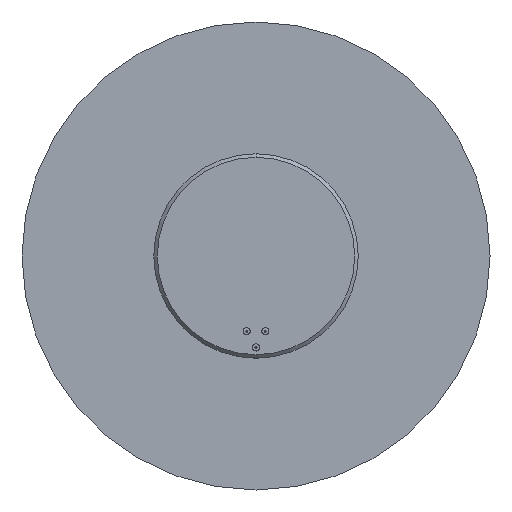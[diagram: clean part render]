
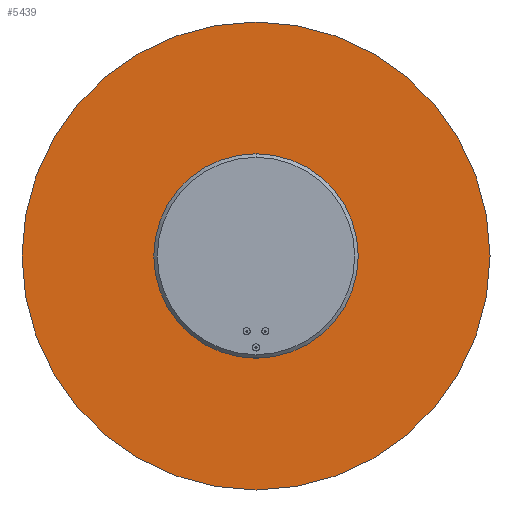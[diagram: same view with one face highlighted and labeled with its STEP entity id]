
A CAD part, front view. The second image highlights one B-rep face of the part: STEP entity #5439.
In plain terms, the highlighted planar face has unit normal (0, -1, 0).
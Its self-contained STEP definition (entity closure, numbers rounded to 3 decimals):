
#136 = EDGE_CURVE ( 'NONE', #3005, #1813, #1327, .T. ) ;
#183 = CARTESIAN_POINT ( 'NONE',  ( 0., 0., 0. ) ) ;
#202 = DIRECTION ( 'NONE',  ( 0., 0., 1. ) ) ;
#1283 = DIRECTION ( 'NONE',  ( 0., 0., 1. ) ) ;
#1327 = CIRCLE ( 'NONE', #5261, 650. ) ;
#1572 = DIRECTION ( 'NONE',  ( 0., 1., 0. ) ) ;
#1813 = VERTEX_POINT ( 'NONE', #1846 ) ;
#1846 = CARTESIAN_POINT ( 'NONE',  ( 0., 0., -650. ) ) ;
#2178 = CARTESIAN_POINT ( 'NONE',  ( 0., 0., 0. ) ) ;
#2410 = EDGE_CURVE ( 'NONE', #1813, #3005, #6368, .T. ) ;
#2538 = ORIENTED_EDGE ( 'NONE', *, *, #2410, .F. ) ;
#2734 = ORIENTED_EDGE ( 'NONE', *, *, #136, .F. ) ;
#2854 = DIRECTION ( 'NONE',  ( 0., 1., 0. ) ) ;
#3005 = VERTEX_POINT ( 'NONE', #3660 ) ;
#3660 = CARTESIAN_POINT ( 'NONE',  ( 0., 0., 650. ) ) ;
#4470 = FACE_OUTER_BOUND ( 'NONE', #6827, .T. ) ;
#4741 = AXIS2_PLACEMENT_3D ( 'NONE', #183, #6106, #1283 ) ;
#5261 = AXIS2_PLACEMENT_3D ( 'NONE', #6095, #2854, #202 ) ;
#5439 = ADVANCED_FACE ( 'NONE', ( #4470 ), #5481, .F. ) ;
#5481 = PLANE ( 'NONE',  #4741 ) ;
#6095 = CARTESIAN_POINT ( 'NONE',  ( 0., 0., 0. ) ) ;
#6106 = DIRECTION ( 'NONE',  ( 0., 1., 0. ) ) ;
#6368 = CIRCLE ( 'NONE', #6803, 650. ) ;
#6463 = DIRECTION ( 'NONE',  ( 0., 0., 1. ) ) ;
#6803 = AXIS2_PLACEMENT_3D ( 'NONE', #2178, #1572, #6463 ) ;
#6827 = EDGE_LOOP ( 'NONE', ( #2538, #2734 ) ) ;
